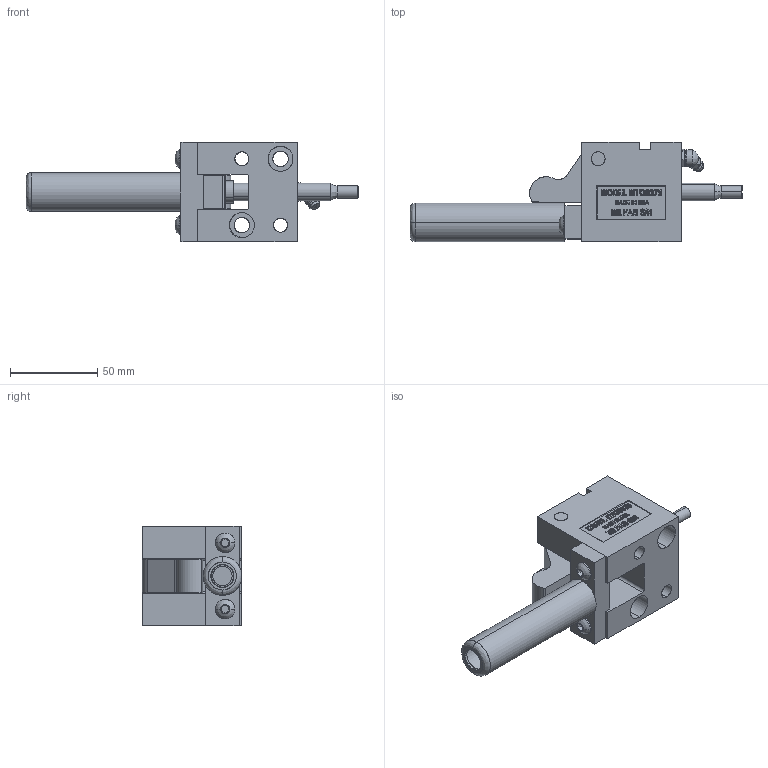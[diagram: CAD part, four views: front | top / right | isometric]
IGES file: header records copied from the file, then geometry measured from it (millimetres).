
Start section: SolidWorks IGES file using analytic representation for surfaces
Global section: file name: Y:\METRIC With OFFSETRIGGER\TOPMOUNT\MTOS37545\CLOSED\MTOS37545-C.IGS; native system: SolidWorks 2006 by SolidWorks Corporation; preprocessor: SolidWorks 2006 by SolidWorks Corporation; author: Jim; date: 090121.113906; units: inch
Bounding box: 190.5 x 57.15 x 57.15 mm (x, y, z)
Surface area: 58356.5 mm2 (no closed solid volume)
Topology: 0 solids, 0 shells, 601 faces, 7251 edges, 7247 vertices
Faces by surface type: bspline 485, revolution 116
